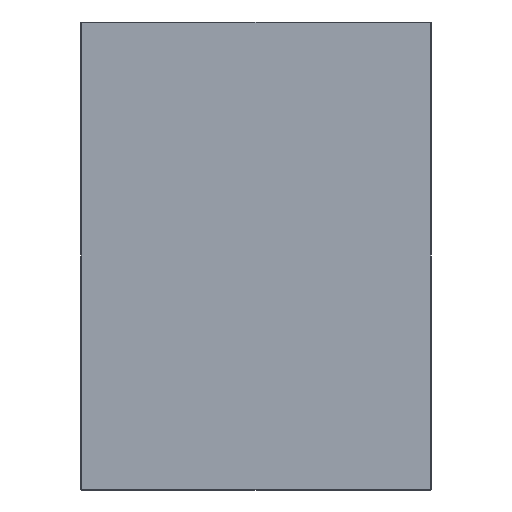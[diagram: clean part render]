
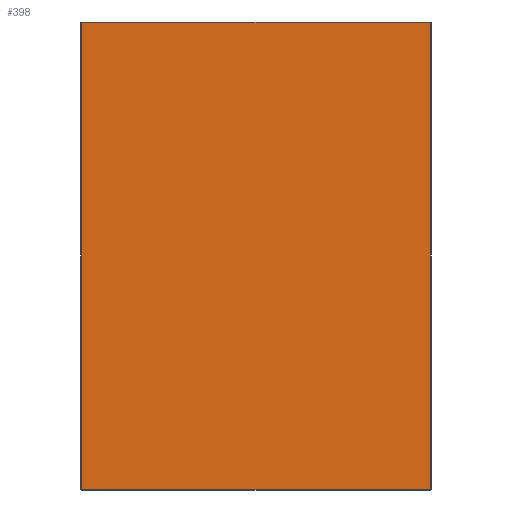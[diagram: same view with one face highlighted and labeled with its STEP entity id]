
A CAD part, front view. The second image highlights one B-rep face of the part: STEP entity #398.
In plain terms, the highlighted planar face has unit normal (0, -1, 0).
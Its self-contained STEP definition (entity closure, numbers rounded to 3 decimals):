
#20 = AXIS2_PLACEMENT_3D ( 'NONE', #358, #403, #406 ) ;
#23 = LINE ( 'NONE', #61, #278 ) ;
#24 = EDGE_CURVE ( 'NONE', #519, #587, #290, .T. ) ;
#29 = CARTESIAN_POINT ( 'NONE',  ( 222., 0., 297. ) ) ;
#31 = CARTESIAN_POINT ( 'NONE',  ( -222., 0., 297. ) ) ;
#50 = FACE_OUTER_BOUND ( 'NONE', #335, .T. ) ;
#61 = CARTESIAN_POINT ( 'NONE',  ( -223., 0., 297. ) ) ;
#97 = EDGE_CURVE ( 'NONE', #587, #272, #108, .T. ) ;
#108 = LINE ( 'NONE', #113, #373 ) ;
#113 = CARTESIAN_POINT ( 'NONE',  ( 223., 0., -297. ) ) ;
#148 = ORIENTED_EDGE ( 'NONE', *, *, #233, .T. ) ;
#164 = CARTESIAN_POINT ( 'NONE',  ( 222., 0., -297. ) ) ;
#166 = EDGE_CURVE ( 'NONE', #272, #571, #196, .T. ) ;
#196 = LINE ( 'NONE', #367, #463 ) ;
#212 = DIRECTION ( 'NONE',  ( 1., 0., 0. ) ) ;
#221 = ORIENTED_EDGE ( 'NONE', *, *, #166, .T. ) ;
#233 = EDGE_CURVE ( 'NONE', #571, #519, #23, .T. ) ;
#243 = DIRECTION ( 'NONE',  ( -1., 0., 0. ) ) ;
#272 = VERTEX_POINT ( 'NONE', #164 ) ;
#278 = VECTOR ( 'NONE', #243, 1000. ) ;
#290 = LINE ( 'NONE', #549, #551 ) ;
#307 = DIRECTION ( 'NONE',  ( 0., 0., 1. ) ) ;
#328 = ORIENTED_EDGE ( 'NONE', *, *, #24, .T. ) ;
#335 = EDGE_LOOP ( 'NONE', ( #328, #526, #221, #148 ) ) ;
#358 = CARTESIAN_POINT ( 'NONE',  ( 0., 0., 0. ) ) ;
#367 = CARTESIAN_POINT ( 'NONE',  ( 222., 0., 298. ) ) ;
#373 = VECTOR ( 'NONE', #212, 1000. ) ;
#392 = PLANE ( 'NONE',  #20 ) ;
#398 = ADVANCED_FACE ( 'NONE', ( #50 ), #392, .T. ) ;
#403 = DIRECTION ( 'NONE',  ( 0., -1., 0. ) ) ;
#406 = DIRECTION ( 'NONE',  ( 0., 0., -1. ) ) ;
#463 = VECTOR ( 'NONE', #307, 1000. ) ;
#519 = VERTEX_POINT ( 'NONE', #31 ) ;
#526 = ORIENTED_EDGE ( 'NONE', *, *, #97, .T. ) ;
#536 = DIRECTION ( 'NONE',  ( 0., 0., -1. ) ) ;
#546 = CARTESIAN_POINT ( 'NONE',  ( -222., 0., -297. ) ) ;
#549 = CARTESIAN_POINT ( 'NONE',  ( -222., 0., -298. ) ) ;
#551 = VECTOR ( 'NONE', #536, 1000. ) ;
#571 = VERTEX_POINT ( 'NONE', #29 ) ;
#587 = VERTEX_POINT ( 'NONE', #546 ) ;
